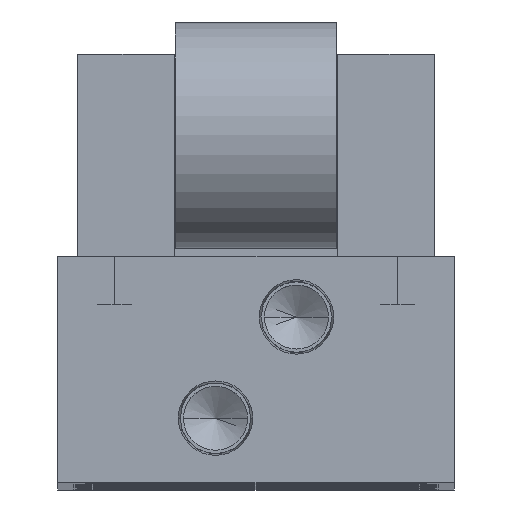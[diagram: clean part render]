
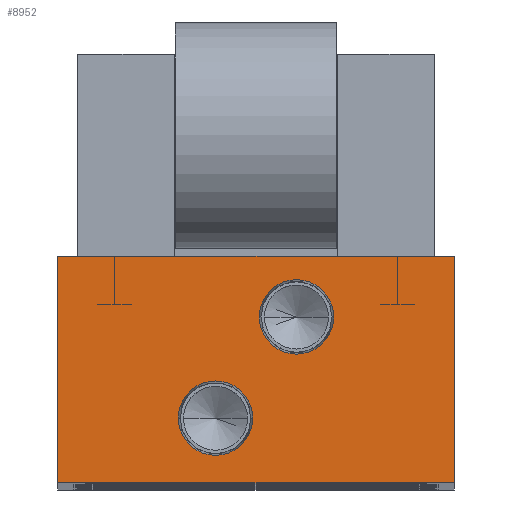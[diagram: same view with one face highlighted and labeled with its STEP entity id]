
A CAD part, top view. The second image highlights one B-rep face of the part: STEP entity #8952.
In plain terms, the highlighted planar face has unit normal (0, 0, 1).
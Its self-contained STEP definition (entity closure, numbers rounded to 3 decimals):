
#135 = EDGE_CURVE ( 'NONE', #17084, #18911, #17591, .T. ) ;
#487 = LINE ( 'NONE', #1549, #13099 ) ;
#735 = LINE ( 'NONE', #16113, #6659 ) ;
#994 = DIRECTION ( 'NONE',  ( 0., -1., 0. ) ) ;
#1142 = ORIENTED_EDGE ( 'NONE', *, *, #135, .F. ) ;
#1549 = CARTESIAN_POINT ( 'NONE',  ( -24.5, 28., 0. ) ) ;
#1634 = EDGE_CURVE ( 'NONE', #14974, #6954, #14143, .T. ) ;
#1895 = ORIENTED_EDGE ( 'NONE', *, *, #6257, .F. ) ;
#2139 = CARTESIAN_POINT ( 'NONE',  ( 5., 20.5, 0. ) ) ;
#2276 = CARTESIAN_POINT ( 'NONE',  ( 5., 20.5, 0. ) ) ;
#2690 = VERTEX_POINT ( 'NONE', #8118 ) ;
#2852 = DIRECTION ( 'NONE',  ( 0., 0., 1. ) ) ;
#3078 = DIRECTION ( 'NONE',  ( -1., 0., 0. ) ) ;
#3107 = CARTESIAN_POINT ( 'NONE',  ( -0.408, 8., 0. ) ) ;
#3644 = DIRECTION ( 'NONE',  ( 1., 0., 0. ) ) ;
#4239 = DIRECTION ( 'NONE',  ( 1., 0., 0. ) ) ;
#4406 = DIRECTION ( 'NONE',  ( 0., 0., 1. ) ) ;
#4986 = CARTESIAN_POINT ( 'NONE',  ( -5., 8., 0. ) ) ;
#5225 = DIRECTION ( 'NONE',  ( 0., 1., 0. ) ) ;
#5756 = AXIS2_PLACEMENT_3D ( 'NONE', #2276, #2852, #4239 ) ;
#6030 = VECTOR ( 'NONE', #5225, 1000. ) ;
#6154 = EDGE_LOOP ( 'NONE', ( #10608, #1895 ) ) ;
#6257 = EDGE_CURVE ( 'NONE', #8848, #11104, #11328, .T. ) ;
#6390 = VECTOR ( 'NONE', #994, 1000. ) ;
#6482 = DIRECTION ( 'NONE',  ( 1., 0., 0. ) ) ;
#6659 = VECTOR ( 'NONE', #6932, 1000. ) ;
#6869 = CARTESIAN_POINT ( 'NONE',  ( -5., 8., 0. ) ) ;
#6932 = DIRECTION ( 'NONE',  ( 1., 0., 0. ) ) ;
#6938 = FACE_OUTER_BOUND ( 'NONE', #12960, .T. ) ;
#6954 = VERTEX_POINT ( 'NONE', #16030 ) ;
#7021 = AXIS2_PLACEMENT_3D ( 'NONE', #6869, #17594, #8420 ) ;
#7155 = ORIENTED_EDGE ( 'NONE', *, *, #13341, .F. ) ;
#7330 = LINE ( 'NONE', #19281, #6390 ) ;
#7462 = PLANE ( 'NONE',  #11748 ) ;
#8118 = CARTESIAN_POINT ( 'NONE',  ( -24.5, 28., 0. ) ) ;
#8420 = DIRECTION ( 'NONE',  ( 1., 0., 0. ) ) ;
#8735 = EDGE_CURVE ( 'NONE', #11104, #8848, #15332, .T. ) ;
#8848 = VERTEX_POINT ( 'NONE', #19389 ) ;
#8952 = ADVANCED_FACE ( 'NONE', ( #10508, #14592, #6938 ), #7462, .T. ) ;
#9412 = ORIENTED_EDGE ( 'NONE', *, *, #19351, .T. ) ;
#10031 = EDGE_CURVE ( 'NONE', #6954, #2690, #487, .T. ) ;
#10508 = FACE_BOUND ( 'NONE', #6154, .T. ) ;
#10608 = ORIENTED_EDGE ( 'NONE', *, *, #8735, .F. ) ;
#11019 = CARTESIAN_POINT ( 'NONE',  ( 24.5, 0., 0. ) ) ;
#11104 = VERTEX_POINT ( 'NONE', #3107 ) ;
#11328 = CIRCLE ( 'NONE', #17147, 4.592 ) ;
#11748 = AXIS2_PLACEMENT_3D ( 'NONE', #18176, #4406, #19724 ) ;
#12139 = CARTESIAN_POINT ( 'NONE',  ( 0.408, 20.5, 0. ) ) ;
#12699 = AXIS2_PLACEMENT_3D ( 'NONE', #2139, #12761, #3644 ) ;
#12761 = DIRECTION ( 'NONE',  ( 0., 0., 1. ) ) ;
#12804 = CARTESIAN_POINT ( 'NONE',  ( 24.5, 28., 0. ) ) ;
#12960 = EDGE_LOOP ( 'NONE', ( #15319, #9412, #16095, #12992 ) ) ;
#12992 = ORIENTED_EDGE ( 'NONE', *, *, #10031, .T. ) ;
#13022 = CARTESIAN_POINT ( 'NONE',  ( -24.5, 0., 0. ) ) ;
#13099 = VECTOR ( 'NONE', #3078, 1000. ) ;
#13341 = EDGE_CURVE ( 'NONE', #18911, #17084, #13521, .T. ) ;
#13488 = EDGE_CURVE ( 'NONE', #2690, #18619, #7330, .T. ) ;
#13521 = CIRCLE ( 'NONE', #12699, 4.592 ) ;
#14020 = CARTESIAN_POINT ( 'NONE',  ( 9.592, 20.5, 0. ) ) ;
#14143 = LINE ( 'NONE', #12804, #6030 ) ;
#14592 = FACE_BOUND ( 'NONE', #17654, .T. ) ;
#14974 = VERTEX_POINT ( 'NONE', #11019 ) ;
#15319 = ORIENTED_EDGE ( 'NONE', *, *, #13488, .T. ) ;
#15332 = CIRCLE ( 'NONE', #7021, 4.592 ) ;
#15664 = DIRECTION ( 'NONE',  ( 0., 0., 1. ) ) ;
#16030 = CARTESIAN_POINT ( 'NONE',  ( 24.5, 28., 0. ) ) ;
#16095 = ORIENTED_EDGE ( 'NONE', *, *, #1634, .T. ) ;
#16113 = CARTESIAN_POINT ( 'NONE',  ( -24.5, 0., 0. ) ) ;
#17084 = VERTEX_POINT ( 'NONE', #12139 ) ;
#17147 = AXIS2_PLACEMENT_3D ( 'NONE', #4986, #15664, #6482 ) ;
#17591 = CIRCLE ( 'NONE', #5756, 4.592 ) ;
#17594 = DIRECTION ( 'NONE',  ( 0., 0., 1. ) ) ;
#17654 = EDGE_LOOP ( 'NONE', ( #7155, #1142 ) ) ;
#18176 = CARTESIAN_POINT ( 'NONE',  ( 0., 0., 0. ) ) ;
#18619 = VERTEX_POINT ( 'NONE', #13022 ) ;
#18911 = VERTEX_POINT ( 'NONE', #14020 ) ;
#19281 = CARTESIAN_POINT ( 'NONE',  ( -24.5, 28., 0. ) ) ;
#19351 = EDGE_CURVE ( 'NONE', #18619, #14974, #735, .T. ) ;
#19389 = CARTESIAN_POINT ( 'NONE',  ( -9.592, 8., 0. ) ) ;
#19724 = DIRECTION ( 'NONE',  ( 1., 0., 0. ) ) ;
